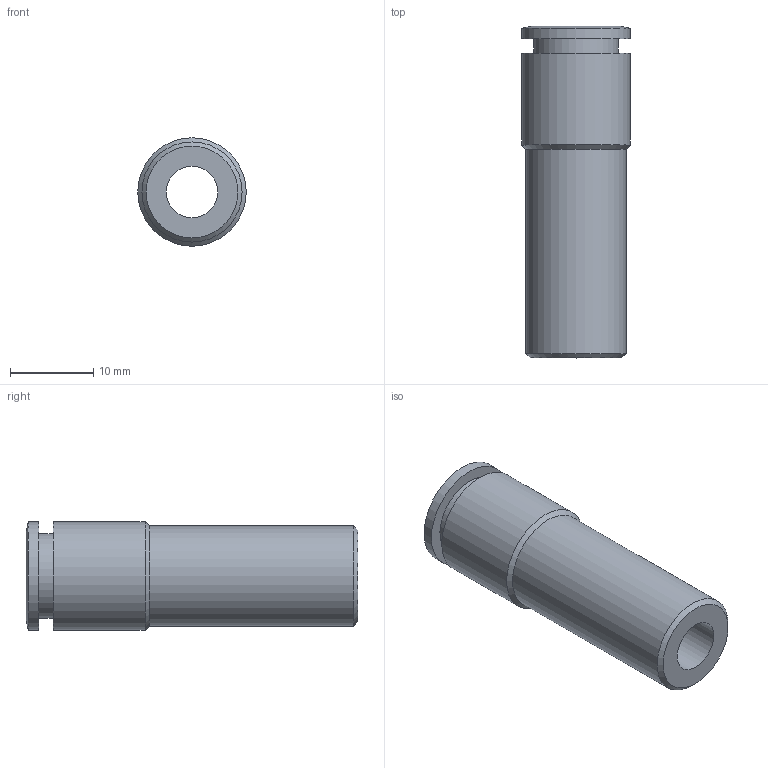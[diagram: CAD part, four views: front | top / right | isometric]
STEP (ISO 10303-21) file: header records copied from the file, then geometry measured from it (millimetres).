
FILE_DESCRIPTION((''),'2;1');
FILE_NAME('C:\Documents and Settings\rivolro1\Documenti\copia di Raccordi\PLASTICA\T08XXXX\T081208.stp','2007-10-30T17:05:29',('Rivolro1'),(''),'Autodesk Inventor 2008','Autodesk Inventor 2008','');
FILE_SCHEMA(('AUTOMOTIVE_DESIGN { 1 0 10303 214 1 1 1 1 }'));
Length unit declared in the file: millimetre
Products named in the file (1): T081208
Bounding box: 13 x 39.75 x 13 mm (x, y, z)
Volume: 3052.4 mm3; surface area: 2697.9 mm2
Topology: 1 solids, 1 shells, 14 faces, 23 edges, 14 vertices
Faces by surface type: cylinder 5, plane 4, cone 3, bspline 2
Full cylindrical faces by diameter (mm): 6.2 x1, 10.1 x1, 12 x1, 13 x2
Entity records: 343 total; most frequent: CARTESIAN_POINT 63, DIRECTION 54, ORIENTED_EDGE 28, EDGE_LOOP 28, AXIS2_PLACEMENT_3D 27, VERTEX_POINT 14, CIRCLE 14, EDGE_CURVE 14
